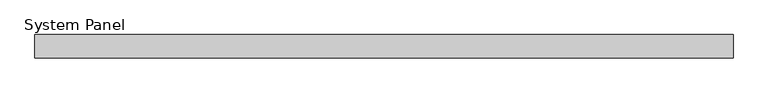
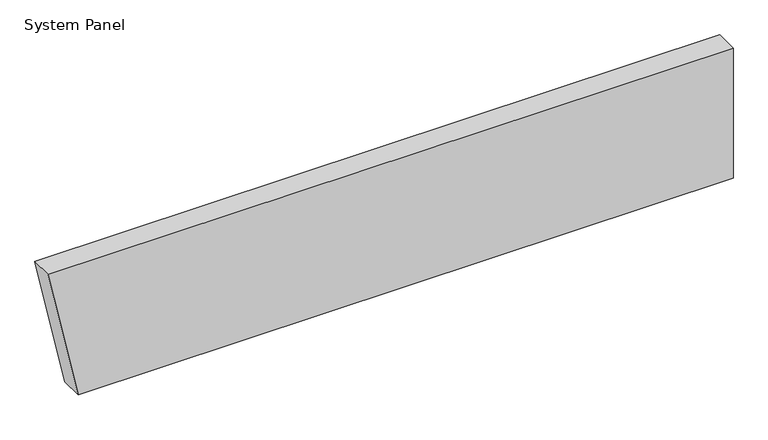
"""IFC4 building model written with IfcOpenShell, lengths in millimetres: plate geometry, System Panel : Equitilt 200mm Horizontal - Plain RHEA - EPS-FR."""

from ifc_helpers import new_model, si_unit, frame, origin, place, context, project, spatial, polyline, outline, extrude, source, transform, mapped, element, save


def system_panel_3cb989ff(model_context):
    return source(origin(), model_context, "Body", "SweptSolid", [
        extrude(outline(polyline([(0.0, -2720.4358309), (0.0, 2981.3074928), (1200.0, 2981.3074928), (1200.0, -2981.3074928), (0.0, -2720.4358309)])), frame((0.0, -200.0, 0.0), z_axis=(0.0, 1.0, 0.0), x_axis=(0.0, 0.0, 1.0)), (0.0, 0.0, 1.0), 200.0),
    ])


if __name__ == "__main__":
    model = new_model("IFC4")
    model_context = context("Model", 3, world=origin())
    ifc_project = project(units=[si_unit("LENGTHUNIT", "METRE", prefix="MILLI")], contexts=[model_context])
    site = spatial("IfcSite", under=ifc_project)
    building = spatial("IfcBuilding", under=site)
    placement = place(None, origin())
    system_panel_shape = system_panel_3cb989ff(model_context)
    element("IfcPlate", 1, ObjectType="System Panel : Equitilt 200mm Horizontal - Plain RHEA - EPS-FR", at=placement, inside=building, context=model_context, shape_type="MappedRepresentation", body=[
        mapped(system_panel_shape, transform((0.0, 0.0, 0.0), x_axis=(1.0, 0.0, 0.0), y_axis=(0.0, 1.0, 0.0), z_axis=(0.0, 0.0, 1.0))),
    ])
    save(model, "model.ifc")
